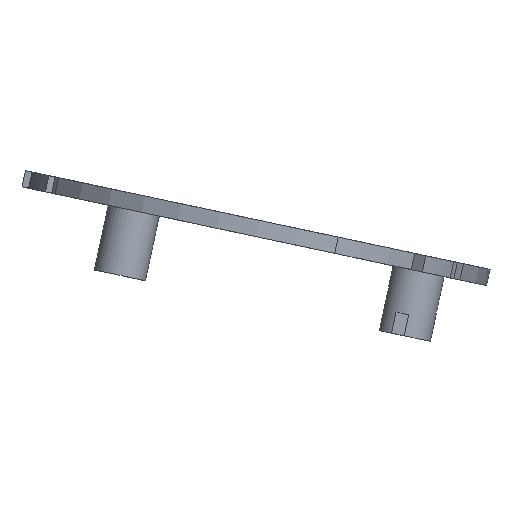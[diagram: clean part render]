
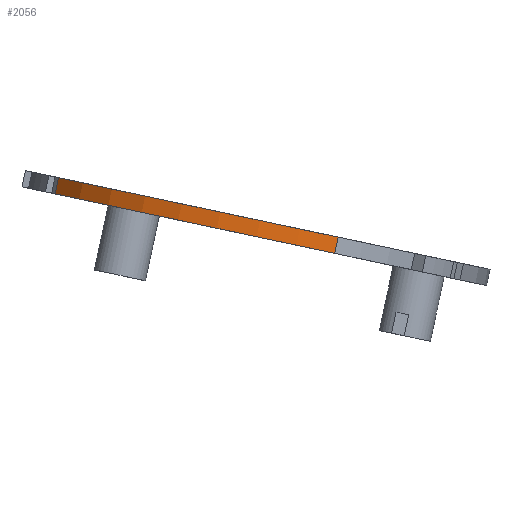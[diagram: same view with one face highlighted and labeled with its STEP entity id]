
A CAD part, left-side view. The second image highlights one B-rep face of the part: STEP entity #2056.
In plain terms, the highlighted cylindrical face has radius 28.9 mm (diameter 57.8 mm), a partial arc.
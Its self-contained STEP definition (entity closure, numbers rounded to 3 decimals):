
#45 = PLANE('',#46);
#46 = AXIS2_PLACEMENT_3D('',#47,#48,#49);
#47 = CARTESIAN_POINT('',(0.,34.55,
    18.585));
#48 = DIRECTION('',(0.,-0.208,0.978));
#49 = DIRECTION('',(1.,0.,0.));
#102 = PLANE('',#103);
#103 = AXIS2_PLACEMENT_3D('',#104,#105,#106);
#104 = CARTESIAN_POINT('',(0.,34.134,
    20.541));
#105 = DIRECTION('',(0.,-0.208,0.978));
#106 = DIRECTION('',(1.,0.,0.));
#337 = VERTEX_POINT('',#338);
#338 = CARTESIAN_POINT('',(-15.477,58.423,
    23.659));
#352 = PLANE('',#353);
#353 = AXIS2_PLACEMENT_3D('',#354,#355,#356);
#354 = CARTESIAN_POINT('',(-15.039,57.89,
    22.524));
#355 = DIRECTION('',(-0.866,-0.489,-0.104));
#356 = DIRECTION('',(0.,-0.208,0.978));
#364 = EDGE_CURVE('',#337,#365,#367,.T.);
#365 = VERTEX_POINT('',#366);
#366 = CARTESIAN_POINT('',(-27.07,24.65,
    16.481));
#367 = SURFACE_CURVE('',#368,(#373,#380),.PCURVE_S1.);
#368 = CIRCLE('',#369,28.9);
#369 = AXIS2_PLACEMENT_3D('',#370,#371,#372);
#370 = CARTESIAN_POINT('',(0.,34.55,18.585));
#371 = DIRECTION('',(0.,-0.208,0.978));
#372 = DIRECTION('',(1.,0.,0.));
#373 = PCURVE('',#45,#374);
#374 = DEFINITIONAL_REPRESENTATION('',(#375),#379);
#375 = CIRCLE('',#376,28.9);
#376 = AXIS2_PLACEMENT_2D('',#377,#378);
#377 = CARTESIAN_POINT('',(0.,0.));
#378 = DIRECTION('',(1.,0.));
#379 = ( GEOMETRIC_REPRESENTATION_CONTEXT(2) 
PARAMETRIC_REPRESENTATION_CONTEXT() REPRESENTATION_CONTEXT('2D SPACE',''
  ) );
#380 = PCURVE('',#381,#386);
#381 = CYLINDRICAL_SURFACE('',#382,28.9);
#382 = AXIS2_PLACEMENT_3D('',#383,#384,#385);
#383 = CARTESIAN_POINT('',(0.,34.55,18.585));
#384 = DIRECTION('',(-0.,0.208,-0.978));
#385 = DIRECTION('',(1.,0.,0.));
#386 = DEFINITIONAL_REPRESENTATION('',(#387),#391);
#387 = LINE('',#388,#389);
#388 = CARTESIAN_POINT('',(-0.,0.));
#389 = VECTOR('',#390,1.);
#390 = DIRECTION('',(-1.,0.));
#391 = ( GEOMETRIC_REPRESENTATION_CONTEXT(2) 
PARAMETRIC_REPRESENTATION_CONTEXT() REPRESENTATION_CONTEXT('2D SPACE',''
  ) );
#409 = PLANE('',#410);
#410 = AXIS2_PLACEMENT_3D('',#411,#412,#413);
#411 = CARTESIAN_POINT('',(-26.789,24.545,
    17.481));
#412 = DIRECTION('',(-0.35,0.916,0.195));
#413 = DIRECTION('',(0.,0.208,-0.978));
#1243 = VERTEX_POINT('',#1244);
#1244 = CARTESIAN_POINT('',(-15.477,58.007,
    25.616));
#1265 = EDGE_CURVE('',#1243,#1266,#1268,.T.);
#1266 = VERTEX_POINT('',#1267);
#1267 = CARTESIAN_POINT('',(-27.07,24.234,
    18.437));
#1268 = SURFACE_CURVE('',#1269,(#1274,#1281),.PCURVE_S1.);
#1269 = CIRCLE('',#1270,28.9);
#1270 = AXIS2_PLACEMENT_3D('',#1271,#1272,#1273);
#1271 = CARTESIAN_POINT('',(0.,34.134,20.541));
#1272 = DIRECTION('',(0.,-0.208,0.978));
#1273 = DIRECTION('',(1.,0.,0.));
#1274 = PCURVE('',#102,#1275);
#1275 = DEFINITIONAL_REPRESENTATION('',(#1276),#1280);
#1276 = CIRCLE('',#1277,28.9);
#1277 = AXIS2_PLACEMENT_2D('',#1278,#1279);
#1278 = CARTESIAN_POINT('',(0.,0.));
#1279 = DIRECTION('',(1.,0.));
#1280 = ( GEOMETRIC_REPRESENTATION_CONTEXT(2) 
PARAMETRIC_REPRESENTATION_CONTEXT() REPRESENTATION_CONTEXT('2D SPACE',''
  ) );
#1281 = PCURVE('',#381,#1282);
#1282 = DEFINITIONAL_REPRESENTATION('',(#1283),#1287);
#1283 = LINE('',#1284,#1285);
#1284 = CARTESIAN_POINT('',(-0.,-2.));
#1285 = VECTOR('',#1286,1.);
#1286 = DIRECTION('',(-1.,0.));
#1287 = ( GEOMETRIC_REPRESENTATION_CONTEXT(2) 
PARAMETRIC_REPRESENTATION_CONTEXT() REPRESENTATION_CONTEXT('2D SPACE',''
  ) );
#2009 = EDGE_CURVE('',#1243,#337,#2010,.T.);
#2010 = SURFACE_CURVE('',#2011,(#2015,#2022),.PCURVE_S1.);
#2011 = LINE('',#2012,#2013);
#2012 = CARTESIAN_POINT('',(-15.477,58.423,
    23.659));
#2013 = VECTOR('',#2014,1.);
#2014 = DIRECTION('',(-0.,0.208,-0.978));
#2015 = PCURVE('',#352,#2016);
#2016 = DEFINITIONAL_REPRESENTATION('',(#2017),#2021);
#2017 = LINE('',#2018,#2019);
#2018 = CARTESIAN_POINT('',(1.,0.875));
#2019 = VECTOR('',#2020,1.);
#2020 = DIRECTION('',(-1.,0.));
#2021 = ( GEOMETRIC_REPRESENTATION_CONTEXT(2) 
PARAMETRIC_REPRESENTATION_CONTEXT() REPRESENTATION_CONTEXT('2D SPACE',''
  ) );
#2022 = PCURVE('',#381,#2023);
#2023 = DEFINITIONAL_REPRESENTATION('',(#2024),#2028);
#2024 = LINE('',#2025,#2026);
#2025 = CARTESIAN_POINT('',(-2.136,0.));
#2026 = VECTOR('',#2027,1.);
#2027 = DIRECTION('',(-0.,1.));
#2028 = ( GEOMETRIC_REPRESENTATION_CONTEXT(2) 
PARAMETRIC_REPRESENTATION_CONTEXT() REPRESENTATION_CONTEXT('2D SPACE',''
  ) );
#2056 = ADVANCED_FACE('',(#2057),#381,.T.);
#2057 = FACE_BOUND('',#2058,.F.);
#2058 = EDGE_LOOP('',(#2059,#2060,#2061,#2062));
#2059 = ORIENTED_EDGE('',*,*,#364,.F.);
#2060 = ORIENTED_EDGE('',*,*,#2009,.F.);
#2061 = ORIENTED_EDGE('',*,*,#1265,.T.);
#2062 = ORIENTED_EDGE('',*,*,#2063,.T.);
#2063 = EDGE_CURVE('',#1266,#365,#2064,.T.);
#2064 = SURFACE_CURVE('',#2065,(#2069,#2076),.PCURVE_S1.);
#2065 = LINE('',#2066,#2067);
#2066 = CARTESIAN_POINT('',(-27.07,24.65,
    16.481));
#2067 = VECTOR('',#2068,1.);
#2068 = DIRECTION('',(-0.,0.208,-0.978));
#2069 = PCURVE('',#381,#2070);
#2070 = DEFINITIONAL_REPRESENTATION('',(#2071),#2075);
#2071 = LINE('',#2072,#2073);
#2072 = CARTESIAN_POINT('',(-3.499,0.));
#2073 = VECTOR('',#2074,1.);
#2074 = DIRECTION('',(-0.,1.));
#2075 = ( GEOMETRIC_REPRESENTATION_CONTEXT(2) 
PARAMETRIC_REPRESENTATION_CONTEXT() REPRESENTATION_CONTEXT('2D SPACE',''
  ) );
#2076 = PCURVE('',#409,#2077);
#2077 = DEFINITIONAL_REPRESENTATION('',(#2078),#2082);
#2078 = LINE('',#2079,#2080);
#2079 = CARTESIAN_POINT('',(1.,0.3));
#2080 = VECTOR('',#2081,1.);
#2081 = DIRECTION('',(1.,0.));
#2082 = ( GEOMETRIC_REPRESENTATION_CONTEXT(2) 
PARAMETRIC_REPRESENTATION_CONTEXT() REPRESENTATION_CONTEXT('2D SPACE',''
  ) );
